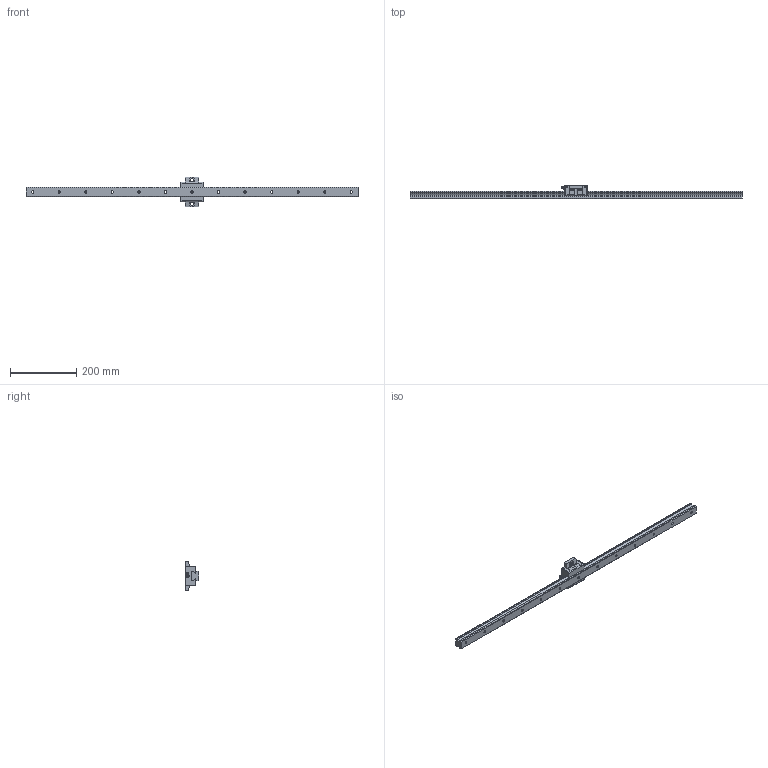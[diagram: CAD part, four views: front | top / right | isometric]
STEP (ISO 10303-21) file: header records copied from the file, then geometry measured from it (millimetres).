
FILE_DESCRIPTION(/* description */ ('STEP AP214'),/* implementation_level */ '2;1');
FILE_NAME(/* name */ 'SSR30XSB1SS-1000L_G20_0_B-M6F_466-65_0_0_0',/* time_stamp */ '2023-08-10T09:19:02+02:00',/* author */ ('License CC BY-ND 4.0'),/* organization */ ('CADENAS'),/* preprocessor_version */ 'ST-DEVELOPER v19.3',/* originating_system */ 'PARTsolutions',/* authorisation */ ' ');
FILE_SCHEMA (('AUTOMOTIVE_DESIGN {1 0 10303 214 3 1 1}'));
Length unit declared in the file: millimetre
Products named in the file (4): SSR30XSB1SS-1000L_G20_0_B-M6F_466-65_0_0_0_; B-M6F-SSR_grease_nipple_joint; SSR30XSBSSB-M6F Slide15-35; SSR30XSB100020 Track
Assembly tree (3 placements, depth 2):
  SSR30XSB1SS-1000L_G20_0_B-M6F_466-65_0_0_0_
    B-M6F-SSR_grease_nipple_joint
    SSR30XSBSSB-M6F Slide15-35
    SSR30XSB100020 Track
Bounding box: 1000 x 42 x 90 mm (x, y, z)
Volume: 659080.8 mm3; surface area: 139472 mm2
Topology: 3 solids, 3 shells, 219 faces, 568 edges, 373 vertices
Faces by surface type: plane 145, cylinder 56, cone 13, sphere 3, torus 2
Full cylindrical faces by diameter (mm): 4 x4, 4.917 x2, 6 x1, 7 x13, 8 x1, 9 x2, 11 x13
Entity records: 6585 total; most frequent: CARTESIAN_POINT 1218, DIRECTION 1082, ORIENTED_EDGE 1020, EDGE_CURVE 510, AXIS2_PLACEMENT_3D 375, VERTEX_POINT 365, LINE 332, VECTOR 332
